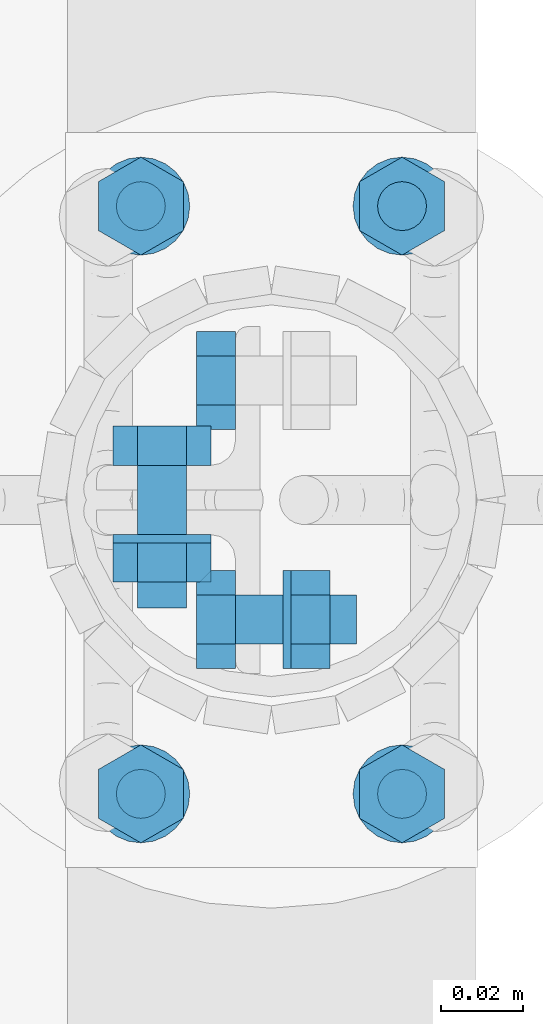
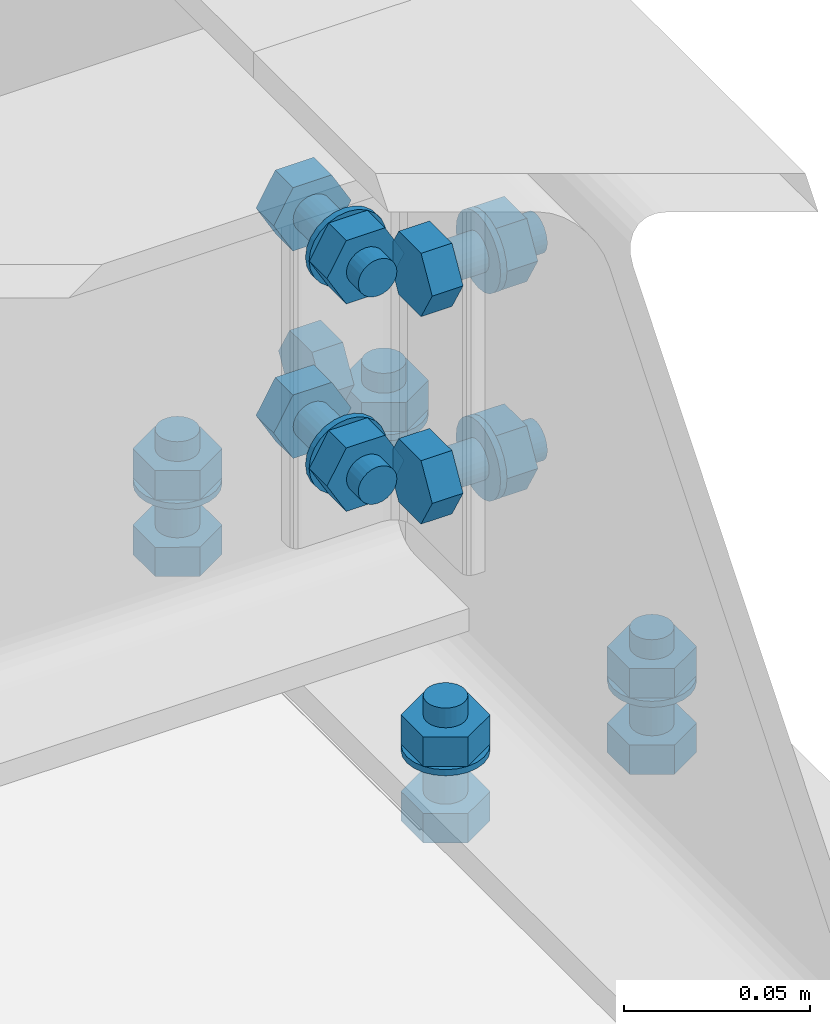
# One storey, part 22 of 84: 40 mechanical fasteners.
"""IFC4 building model written with IfcOpenShell, lengths in metres."""

from ifc_helpers import new_model, si_unit, frame, origin_with_axes, place, context, project, spatial, polyline, outline, extrude, type_object, element, save


model = new_model("IFC4")

# Units and contexts
model_context = context("Model", 3, precision=1e-05, world=origin_with_axes())
ifc_project = project(units=[si_unit("LENGTHUNIT", "METRE"), si_unit("AREAUNIT", "SQUARE_METRE"), si_unit("VOLUMEUNIT", "CUBIC_METRE"), si_unit("MASSUNIT", "GRAM", prefix="KILO"), si_unit("TIMEUNIT", "SECOND"), si_unit("PLANEANGLEUNIT", "RADIAN"), si_unit("SOLIDANGLEUNIT", "STERADIAN"), si_unit("THERMODYNAMICTEMPERATUREUNIT", "DEGREE_CELSIUS")], contexts=[model_context])

# Site, building, storey
placement_1 = place(None, origin_with_axes())
site = spatial("IfcSite", under=ifc_project, at=placement_1, Name="Italia", CompositionType="ELEMENT")
building = spatial("IfcBuilding", under=site, at=placement_1, Name="Tettoia", CompositionType="ELEMENT")
storey_placement = place(None, frame((0.0, 0.0, 4.199999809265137), z_axis=(0.0, 0.0, 1.0), x_axis=(1.0, 0.0, 0.0)))
storey = spatial("IfcBuildingStorey", under=building, at=storey_placement, Name="Storey 1", CompositionType="ELEMENT", Elevation=4.199999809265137)

# Mechanical fasteners
mechanical_fastener_type_1 = type_object("IfcMechanicalFastenerType", Name="Collegamento 0102_-002", PredefinedType="BOLT")
placement_2 = place(placement_1, origin_with_axes())
mechanical_fastener_1_placement = place(placement_2, origin_with_axes())
element("IfcMechanicalFastener", 1, at=mechanical_fastener_1_placement, inside=storey, type_object=mechanical_fastener_type_1, Name="Collegamento 0102_-002", NominalDiameter=0.012, context=model_context, shape_type="SweptSolid", body=[
    extrude(outline(polyline([(0.0, 0.0), (-0.000204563, -0.00155258), (-0.000803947, -0.00300026), (-0.00175738, -0.0042429), (-0.00300002, -0.00519657), (-0.00444722, -0.00579548), (-0.00600004, -0.00599957), (-0.00755286, -0.00579548), (-0.00900006, -0.00519657), (-0.0102427, -0.0042429), (-0.0111961, -0.00300026), (-0.0117955, -0.00155258), (-0.0120001, 0.0), (-0.0117955, 0.00155258), (-0.0111961, 0.00300026), (-0.0102427, 0.0042429), (-0.00900006, 0.00519657), (-0.00755286, 0.00579548), (-0.00600004, 0.00599957), (-0.00444722, 0.00579548), (-0.00300002, 0.00519657), (-0.00175738, 0.0042429), (-0.000803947, 0.00300026), (-0.000204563, 0.00155258), (0.0, 0.0)])), frame((11.322, 2.078, 4.2265), z_axis=(0.0, 0.0, -1.0), x_axis=(0.0, 1.0, 0.0)), (0.0, 0.0, 1.0), 0.0315003),
])
mechanical_fastener_type_2 = type_object("IfcMechanicalFastenerType", Name="Collegamento 0102_-002", PredefinedType="BOLT")
mechanical_fastener_2_placement = place(placement_2, origin_with_axes())
element("IfcMechanicalFastener", 2, at=mechanical_fastener_2_placement, inside=storey, type_object=mechanical_fastener_type_2, Name="Collegamento 0102_-002", NominalDiameter=0.0119998, context=model_context, shape_type="SweptSolid", body=[
    extrude(outline(polyline([(0.0, 0.0), (0.0119998, 0.0), (0.0179999, -0.0103931), (0.0119998, -0.0207853), (0.0, -0.0207853), (-0.00600004, -0.0103931), (0.0, 0.0)])), frame((11.3324, 2.066, 4.2201), z_axis=(0.0, 0.0, -1.0), x_axis=(0.0, 1.0, 0.0)), (0.0, 0.0, 1.0), 0.00960016),
])
mechanical_fastener_type_3 = type_object("IfcMechanicalFastenerType", Name="Collegamento 0102_-002", PredefinedType="BOLT")
mechanical_fastener_3_placement = place(placement_2, origin_with_axes())
element("IfcMechanicalFastener", 3, at=mechanical_fastener_3_placement, inside=storey, type_object=mechanical_fastener_type_3, Name="Collegamento 0102_-002", NominalDiameter=0.024, context=model_context, shape_type="SweptSolid", body=[
    extrude(outline(polyline([(0.0, 0.0), (-0.000408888, -0.00310612), (-0.00160789, -0.00599957), (-0.00351477, -0.00848484), (-0.00600004, -0.0103922), (-0.00889421, -0.011591), (-0.0120001, -0.0120001), (-0.015106, -0.011591), (-0.0180001, -0.0103922), (-0.0204854, -0.00848484), (-0.0223923, -0.00599957), (-0.0235913, -0.00310612), (-0.0240002, 0.0), (-0.0235913, 0.00310612), (-0.0223923, 0.00599957), (-0.0204854, 0.00848484), (-0.0180001, 0.0103922), (-0.015106, 0.011591), (-0.0120001, 0.0120001), (-0.00889421, 0.011591), (-0.00600004, 0.0103922), (-0.00351477, 0.00848484), (-0.00160789, 0.00599957), (-0.000408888, 0.00310612), (0.0, 0.0)])), frame((11.322, 2.084, 4.2105), z_axis=(0.0, 0.0, -1.0), x_axis=(0.0, 1.0, 0.0)), (0.0, 0.0, 1.0), 0.00199986),
])
mechanical_fastener_type_4 = type_object("IfcMechanicalFastenerType", Name="Collegamento 0102_-002", PredefinedType="BOLT")
mechanical_fastener_4_placement = place(placement_2, origin_with_axes())
element("IfcMechanicalFastener", 4, at=mechanical_fastener_4_placement, inside=storey, type_object=mechanical_fastener_type_4, Name="Collegamento 0102_-002", NominalDiameter=0.0119999, context=model_context, shape_type="SweptSolid", body=[
    extrude(outline(polyline([(0.0, 0.0), (0.012, 0.0), (0.018, -0.0103931), (0.012, -0.0207853), (0.0, -0.0207853), (-0.00600004, -0.0103931), (0.0, 0.0)])), frame((11.3324, 1.922, 4.195), z_axis=(0.0, 0.0, -1.0), x_axis=(0.0, 1.0, 0.0)), (0.0, 0.0, 1.0), 0.00959969),
])
mechanical_fastener_type_5 = type_object("IfcMechanicalFastenerType", Name="Collegamento 0102_-002", PredefinedType="BOLT")
mechanical_fastener_5_placement = place(placement_2, origin_with_axes())
element("IfcMechanicalFastener", 5, at=mechanical_fastener_5_placement, inside=storey, type_object=mechanical_fastener_type_5, Name="Collegamento 0102_-002", NominalDiameter=0.012, context=model_context, shape_type="SweptSolid", body=[
    extrude(outline(polyline([(0.0, 0.0), (-0.000204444, -0.00155258), (-0.000803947, -0.00300026), (-0.00175738, -0.0042429), (-0.00300002, -0.00519657), (-0.0044471, -0.00579548), (-0.00600004, -0.00599957), (-0.00755298, -0.00579548), (-0.00900006, -0.00519657), (-0.0102427, -0.0042429), (-0.0111961, -0.00300026), (-0.0117956, -0.00155258), (-0.0120001, 0.0), (-0.0117956, 0.00155258), (-0.0111961, 0.00300026), (-0.0102427, 0.0042429), (-0.00900006, 0.00519657), (-0.00755298, 0.00579548), (-0.00600004, 0.00599957), (-0.0044471, 0.00579548), (-0.00300002, 0.00519657), (-0.00175738, 0.0042429), (-0.000803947, 0.00300026), (-0.000204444, 0.00155258), (0.0, 0.0)])), frame((11.322, 1.934, 4.2265), z_axis=(0.0, 0.0, -1.0), x_axis=(0.0, 1.0, 0.0)), (0.0, 0.0, 1.0), 0.0315003),
])
mechanical_fastener_type_6 = type_object("IfcMechanicalFastenerType", Name="Collegamento 0102_-002", PredefinedType="BOLT")
mechanical_fastener_6_placement = place(placement_2, origin_with_axes())
element("IfcMechanicalFastener", 6, at=mechanical_fastener_6_placement, inside=storey, type_object=mechanical_fastener_type_6, Name="Collegamento 0102_-002", NominalDiameter=0.0119999, context=model_context, shape_type="SweptSolid", body=[
    extrude(outline(polyline([(0.0, 0.0), (0.012, 0.0), (0.018, -0.0103931), (0.012, -0.0207853), (0.0, -0.0207853), (-0.00600004, -0.0103931), (0.0, 0.0)])), frame((11.3324, 1.922, 4.2201), z_axis=(0.0, 0.0, -1.0), x_axis=(0.0, 1.0, 0.0)), (0.0, 0.0, 1.0), 0.00960016),
])
mechanical_fastener_type_7 = type_object("IfcMechanicalFastenerType", Name="Collegamento 0102_-002", PredefinedType="BOLT")
mechanical_fastener_7_placement = place(placement_2, origin_with_axes())
element("IfcMechanicalFastener", 7, at=mechanical_fastener_7_placement, inside=storey, type_object=mechanical_fastener_type_7, Name="Collegamento 0102_-002", NominalDiameter=0.024, context=model_context, shape_type="SweptSolid", body=[
    extrude(outline(polyline([(0.0, 0.0), (-0.000408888, -0.00310612), (-0.00160766, -0.00599957), (-0.00351465, -0.00848484), (-0.00599992, -0.0103922), (-0.00889409, -0.011591), (-0.012, -0.0120001), (-0.0151058, -0.011591), (-0.018, -0.0103922), (-0.0204853, -0.00848484), (-0.0223923, -0.00599957), (-0.023591, -0.00310612), (-0.0239999, 0.0), (-0.023591, 0.00310612), (-0.0223923, 0.00599957), (-0.0204853, 0.00848484), (-0.018, 0.0103922), (-0.0151058, 0.011591), (-0.012, 0.0120001), (-0.00889409, 0.011591), (-0.00599992, 0.0103922), (-0.00351465, 0.00848484), (-0.00160766, 0.00599957), (-0.000408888, 0.00310612), (0.0, 0.0)])), frame((11.322, 1.94, 4.2105), z_axis=(0.0, 0.0, -1.0), x_axis=(0.0, 1.0, 0.0)), (0.0, 0.0, 1.0), 0.00199986),
])
mechanical_fastener_type_8 = type_object("IfcMechanicalFastenerType", Name="Collegamento 0102_-002", PredefinedType="BOLT")
mechanical_fastener_8_placement = place(placement_2, origin_with_axes())
element("IfcMechanicalFastener", 8, at=mechanical_fastener_8_placement, inside=storey, type_object=mechanical_fastener_type_8, Name="Collegamento 0102_-002", NominalDiameter=0.0119998, context=model_context, shape_type="SweptSolid", body=[
    extrude(outline(polyline([(0.0, 0.0), (0.0119998, 0.0), (0.0179999, -0.0103922), (0.0119998, -0.0207853), (0.0, -0.0207853), (-0.00600004, -0.0103922), (0.0, 0.0)])), frame((11.2684, 2.066, 4.195), z_axis=(0.0, 0.0, -1.0), x_axis=(0.0, 1.0, 0.0)), (0.0, 0.0, 1.0), 0.00959969),
])
mechanical_fastener_type_9 = type_object("IfcMechanicalFastenerType", Name="Collegamento 0102_-002", PredefinedType="BOLT")
mechanical_fastener_9_placement = place(placement_2, origin_with_axes())
element("IfcMechanicalFastener", 9, at=mechanical_fastener_9_placement, inside=storey, type_object=mechanical_fastener_type_9, Name="Collegamento 0102_-002", NominalDiameter=0.012, context=model_context, shape_type="SweptSolid", body=[
    extrude(outline(polyline([(0.0, 0.0), (-0.000204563, -0.00155258), (-0.000803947, -0.00300026), (-0.00175738, -0.0042429), (-0.00300002, -0.00519657), (-0.00444722, -0.00579548), (-0.00600004, -0.00599957), (-0.00755286, -0.00579548), (-0.00900006, -0.00519657), (-0.0102427, -0.0042429), (-0.0111961, -0.00300026), (-0.0117955, -0.00155258), (-0.0120001, 0.0), (-0.0117955, 0.00155258), (-0.0111961, 0.00300026), (-0.0102427, 0.0042429), (-0.00900006, 0.00519657), (-0.00755286, 0.00579548), (-0.00600004, 0.00599957), (-0.00444722, 0.00579548), (-0.00300002, 0.00519657), (-0.00175738, 0.0042429), (-0.000803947, 0.00300026), (-0.000204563, 0.00155258), (0.0, 0.0)])), frame((11.258, 2.078, 4.2265), z_axis=(0.0, 0.0, -1.0), x_axis=(0.0, 1.0, 0.0)), (0.0, 0.0, 1.0), 0.0315003),
])
mechanical_fastener_type_10 = type_object("IfcMechanicalFastenerType", Name="Collegamento 0102_-002", PredefinedType="BOLT")
mechanical_fastener_10_placement = place(placement_2, origin_with_axes())
element("IfcMechanicalFastener", 10, at=mechanical_fastener_10_placement, inside=storey, type_object=mechanical_fastener_type_10, Name="Collegamento 0102_-002", NominalDiameter=0.0119998, context=model_context, shape_type="SweptSolid", body=[
    extrude(outline(polyline([(0.0, 0.0), (0.0119998, 0.0), (0.0179999, -0.0103922), (0.0119998, -0.0207853), (0.0, -0.0207853), (-0.00600004, -0.0103922), (0.0, 0.0)])), frame((11.2684, 2.066, 4.2201), z_axis=(0.0, 0.0, -1.0), x_axis=(0.0, 1.0, 0.0)), (0.0, 0.0, 1.0), 0.00960016),
])
mechanical_fastener_type_11 = type_object("IfcMechanicalFastenerType", Name="Collegamento 0102_-002", PredefinedType="BOLT")
mechanical_fastener_11_placement = place(placement_2, origin_with_axes())
element("IfcMechanicalFastener", 11, at=mechanical_fastener_11_placement, inside=storey, type_object=mechanical_fastener_type_11, Name="Collegamento 0102_-002", NominalDiameter=0.024, context=model_context, shape_type="SweptSolid", body=[
    extrude(outline(polyline([(0.0, 0.0), (-0.000408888, -0.00310612), (-0.00160789, -0.00599957), (-0.00351477, -0.00848484), (-0.00600004, -0.0103922), (-0.00889421, -0.011591), (-0.0120001, -0.0120001), (-0.015106, -0.011591), (-0.0180001, -0.0103922), (-0.0204854, -0.00848484), (-0.0223923, -0.00599957), (-0.0235913, -0.00310612), (-0.0240002, 0.0), (-0.0235913, 0.00310612), (-0.0223923, 0.00599957), (-0.0204854, 0.00848484), (-0.0180001, 0.0103922), (-0.015106, 0.011591), (-0.0120001, 0.0120001), (-0.00889421, 0.011591), (-0.00600004, 0.0103922), (-0.00351477, 0.00848484), (-0.00160789, 0.00599957), (-0.000408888, 0.00310612), (0.0, 0.0)])), frame((11.258, 2.084, 4.2105), z_axis=(0.0, 0.0, -1.0), x_axis=(0.0, 1.0, 0.0)), (0.0, 0.0, 1.0), 0.00199986),
])
mechanical_fastener_type_12 = type_object("IfcMechanicalFastenerType", Name="Collegamento 0102_-002", PredefinedType="BOLT")
mechanical_fastener_12_placement = place(placement_2, origin_with_axes())
element("IfcMechanicalFastener", 12, at=mechanical_fastener_12_placement, inside=storey, type_object=mechanical_fastener_type_12, Name="Collegamento 0102_-002", NominalDiameter=0.0119999, context=model_context, shape_type="SweptSolid", body=[
    extrude(outline(polyline([(0.0, 0.0), (0.012, 0.0), (0.018, -0.0103922), (0.012, -0.0207853), (0.0, -0.0207853), (-0.00600004, -0.0103922), (0.0, 0.0)])), frame((11.2684, 1.922, 4.195), z_axis=(0.0, 0.0, -1.0), x_axis=(0.0, 1.0, 0.0)), (0.0, 0.0, 1.0), 0.00959969),
])
mechanical_fastener_type_13 = type_object("IfcMechanicalFastenerType", Name="Collegamento 0102_-002", PredefinedType="BOLT")
mechanical_fastener_13_placement = place(placement_2, origin_with_axes())
element("IfcMechanicalFastener", 13, at=mechanical_fastener_13_placement, inside=storey, type_object=mechanical_fastener_type_13, Name="Collegamento 0102_-002", NominalDiameter=0.012, context=model_context, shape_type="SweptSolid", body=[
    extrude(outline(polyline([(0.0, 0.0), (-0.000204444, -0.00155258), (-0.000803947, -0.00300026), (-0.00175738, -0.0042429), (-0.00300002, -0.00519657), (-0.0044471, -0.00579548), (-0.00600004, -0.00599957), (-0.00755298, -0.00579548), (-0.00900006, -0.00519657), (-0.0102427, -0.0042429), (-0.0111961, -0.00300026), (-0.0117956, -0.00155258), (-0.0120001, 0.0), (-0.0117956, 0.00155258), (-0.0111961, 0.00300026), (-0.0102427, 0.0042429), (-0.00900006, 0.00519657), (-0.00755298, 0.00579548), (-0.00600004, 0.00599957), (-0.0044471, 0.00579548), (-0.00300002, 0.00519657), (-0.00175738, 0.0042429), (-0.000803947, 0.00300026), (-0.000204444, 0.00155258), (0.0, 0.0)])), frame((11.258, 1.934, 4.2265), z_axis=(0.0, 0.0, -1.0), x_axis=(0.0, 1.0, 0.0)), (0.0, 0.0, 1.0), 0.0315003),
])
mechanical_fastener_type_14 = type_object("IfcMechanicalFastenerType", Name="Collegamento 0102_-002", PredefinedType="BOLT")
mechanical_fastener_14_placement = place(placement_2, origin_with_axes())
element("IfcMechanicalFastener", 14, at=mechanical_fastener_14_placement, inside=storey, type_object=mechanical_fastener_type_14, Name="Collegamento 0102_-002", NominalDiameter=0.0119999, context=model_context, shape_type="SweptSolid", body=[
    extrude(outline(polyline([(0.0, 0.0), (0.012, 0.0), (0.018, -0.0103922), (0.012, -0.0207853), (0.0, -0.0207853), (-0.00600004, -0.0103922), (0.0, 0.0)])), frame((11.2684, 1.922, 4.2201), z_axis=(0.0, 0.0, -1.0), x_axis=(0.0, 1.0, 0.0)), (0.0, 0.0, 1.0), 0.00960016),
])
mechanical_fastener_type_15 = type_object("IfcMechanicalFastenerType", Name="Collegamento 0102_-002", PredefinedType="BOLT")
mechanical_fastener_15_placement = place(placement_2, origin_with_axes())
element("IfcMechanicalFastener", 15, at=mechanical_fastener_15_placement, inside=storey, type_object=mechanical_fastener_type_15, Name="Collegamento 0102_-002", NominalDiameter=0.024, context=model_context, shape_type="SweptSolid", body=[
    extrude(outline(polyline([(0.0, 0.0), (-0.000408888, -0.00310612), (-0.00160766, -0.00599957), (-0.00351465, -0.00848484), (-0.00599992, -0.0103922), (-0.00889409, -0.011591), (-0.012, -0.0120001), (-0.0151058, -0.011591), (-0.018, -0.0103922), (-0.0204853, -0.00848484), (-0.0223923, -0.00599957), (-0.023591, -0.00310612), (-0.0239999, 0.0), (-0.023591, 0.00310612), (-0.0223923, 0.00599957), (-0.0204853, 0.00848484), (-0.018, 0.0103922), (-0.0151058, 0.011591), (-0.012, 0.0120001), (-0.00889409, 0.011591), (-0.00599992, 0.0103922), (-0.00351465, 0.00848484), (-0.00160766, 0.00599957), (-0.000408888, 0.00310612), (0.0, 0.0)])), frame((11.258, 1.94, 4.2105), z_axis=(0.0, 0.0, -1.0), x_axis=(0.0, 1.0, 0.0)), (0.0, 0.0, 1.0), 0.00199986),
])
mechanical_fastener_type_16 = type_object("IfcMechanicalFastenerType", Name="Collegamento 0102_0101", PredefinedType="BOLT")
mechanical_fastener_16_placement = place(placement_2, origin_with_axes())
element("IfcMechanicalFastener", 16, at=mechanical_fastener_16_placement, inside=storey, type_object=mechanical_fastener_type_16, Name="Collegamento 0102_0101", NominalDiameter=0.0119997, context=model_context, shape_type="SweptSolid", body=[
    extrude(outline(polyline([(0.0, 0.0), (-0.0120001, 0.0), (-0.0179996, 0.0103922), (-0.0120001, 0.0207844), (0.0, 0.0207844), (0.00600052, 0.0103922), (0.0, 0.0)])), frame((11.2572, 2.0085, 4.25561), z_axis=(0.0, 1.0, 0.0), x_axis=(-1.0, 0.0, 0.0)), (0.0, 0.0, 1.0), 0.00959992),
])
mechanical_fastener_type_17 = type_object("IfcMechanicalFastenerType", Name="Collegamento 0102_0101", PredefinedType="BOLT")
mechanical_fastener_17_placement = place(placement_2, origin_with_axes())
element("IfcMechanicalFastener", 17, at=mechanical_fastener_17_placement, inside=storey, type_object=mechanical_fastener_type_17, Name="Collegamento 0102_0101", NominalDiameter=0.012, context=model_context, shape_type="SweptSolid", body=[
    extrude(outline(polyline([(0.0, 0.0), (-0.000204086, -0.00155306), (-0.000802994, -0.00299978), (-0.00175667, -0.00424242), (-0.00299931, -0.00519609), (-0.00444698, -0.00579548), (-0.00599957, -0.00600004), (-0.00755215, -0.00579548), (-0.00899982, -0.00519609), (-0.0102425, -0.00424242), (-0.0111961, -0.00299978), (-0.011795, -0.00155306), (-0.0119991, 0.0), (-0.011795, 0.00155306), (-0.0111961, 0.00299978), (-0.0102425, 0.00424242), (-0.00899982, 0.00519609), (-0.00755215, 0.00579548), (-0.00599957, 0.00600004), (-0.00444698, 0.00579548), (-0.00299931, 0.00519609), (-0.00175667, 0.00424242), (-0.000802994, 0.00299978), (-0.000204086, 0.00155306), (0.0, 0.0)])), frame((11.2572, 1.9735, 4.266), z_axis=(0.0, 1.0, 0.0), x_axis=(-1.0, 0.0, 0.0)), (0.0, 0.0, 1.0), 0.0350001),
])
mechanical_fastener_type_18 = type_object("IfcMechanicalFastenerType", Name="Collegamento 0102_0101", PredefinedType="BOLT")
mechanical_fastener_18_placement = place(placement_2, origin_with_axes())
element("IfcMechanicalFastener", 18, at=mechanical_fastener_18_placement, inside=storey, type_object=mechanical_fastener_type_18, Name="Collegamento 0102_0101", NominalDiameter=0.0119997, context=model_context, shape_type="SweptSolid", body=[
    extrude(outline(polyline([(0.0, 0.0), (-0.0120001, 0.0), (-0.0179996, 0.0103922), (-0.0120001, 0.0207844), (0.0, 0.0207844), (0.00600052, 0.0103922), (0.0, 0.0)])), frame((11.2572, 1.9799, 4.25561), z_axis=(0.0, 1.0, 0.0), x_axis=(-1.0, 0.0, 0.0)), (0.0, 0.0, 1.0), 0.00960004),
])
mechanical_fastener_type_19 = type_object("IfcMechanicalFastenerType", Name="Collegamento 0102_0101", PredefinedType="BOLT")
mechanical_fastener_19_placement = place(placement_2, origin_with_axes())
element("IfcMechanicalFastener", 19, at=mechanical_fastener_19_placement, inside=storey, type_object=mechanical_fastener_type_19, Name="Collegamento 0102_0101", NominalDiameter=0.024, context=model_context, shape_type="SweptSolid", body=[
    extrude(outline(polyline([(0.0, 0.0), (-0.000409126, -0.00310564), (-0.00160789, -0.00600004), (-0.00351524, -0.00848532), (-0.00600052, -0.0103922), (-0.00889397, -0.011591), (-0.0120001, -0.0120001), (-0.0151062, -0.011591), (-0.0179996, -0.0103922), (-0.0204849, -0.00848532), (-0.0223923, -0.00600004), (-0.023591, -0.00310564), (-0.0240002, 0.0), (-0.023591, 0.00310564), (-0.0223923, 0.00600004), (-0.0204849, 0.00848532), (-0.0179996, 0.0103922), (-0.0151062, 0.011591), (-0.0120001, 0.0120001), (-0.00889397, 0.011591), (-0.00600052, 0.0103922), (-0.00351524, 0.00848532), (-0.00160789, 0.00600004), (-0.000409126, 0.00310564), (0.0, 0.0)])), frame((11.2512, 1.9895, 4.266), z_axis=(0.0, 1.0, 0.0), x_axis=(-1.0, 0.0, 0.0)), (0.0, 0.0, 1.0), 0.00199997),
])
mechanical_fastener_type_20 = type_object("IfcMechanicalFastenerType", Name="Collegamento 0102_0101", PredefinedType="BOLT")
mechanical_fastener_20_placement = place(placement_2, origin_with_axes())
element("IfcMechanicalFastener", 20, at=mechanical_fastener_20_placement, inside=storey, type_object=mechanical_fastener_type_20, Name="Collegamento 0102_0101", NominalDiameter=0.0119997, context=model_context, shape_type="SweptSolid", body=[
    extrude(outline(polyline([(0.0, 0.0), (-0.0120001, 0.0), (-0.0179996, 0.0103922), (-0.0120001, 0.0207844), (0.0, 0.0207844), (0.00600052, 0.0103922), (0.0, 0.0)])), frame((11.2572, 2.0085, 4.32361), z_axis=(0.0, 1.0, 0.0), x_axis=(-1.0, 0.0, 0.0)), (0.0, 0.0, 1.0), 0.00959992),
])
mechanical_fastener_type_21 = type_object("IfcMechanicalFastenerType", Name="Collegamento 0102_0101", PredefinedType="BOLT")
mechanical_fastener_21_placement = place(placement_2, origin_with_axes())
element("IfcMechanicalFastener", 21, at=mechanical_fastener_21_placement, inside=storey, type_object=mechanical_fastener_type_21, Name="Collegamento 0102_0101", NominalDiameter=0.012, context=model_context, shape_type="SweptSolid", body=[
    extrude(outline(polyline([(0.0, 0.0), (-0.000204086, -0.00155306), (-0.000802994, -0.00299978), (-0.00175667, -0.00424242), (-0.00299931, -0.00519609), (-0.00444698, -0.00579548), (-0.00599957, -0.00600004), (-0.00755215, -0.00579548), (-0.00899982, -0.00519609), (-0.0102425, -0.00424242), (-0.0111961, -0.00299978), (-0.011795, -0.00155306), (-0.0119991, 0.0), (-0.011795, 0.00155306), (-0.0111961, 0.00299978), (-0.0102425, 0.00424242), (-0.00899982, 0.00519609), (-0.00755215, 0.00579548), (-0.00599957, 0.00600004), (-0.00444698, 0.00579548), (-0.00299931, 0.00519609), (-0.00175667, 0.00424242), (-0.000802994, 0.00299978), (-0.000204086, 0.00155306), (0.0, 0.0)])), frame((11.2572, 1.9735, 4.334), z_axis=(0.0, 1.0, 0.0), x_axis=(-1.0, 0.0, 0.0)), (0.0, 0.0, 1.0), 0.0350001),
])
mechanical_fastener_type_22 = type_object("IfcMechanicalFastenerType", Name="Collegamento 0102_0101", PredefinedType="BOLT")
mechanical_fastener_22_placement = place(placement_2, origin_with_axes())
element("IfcMechanicalFastener", 22, at=mechanical_fastener_22_placement, inside=storey, type_object=mechanical_fastener_type_22, Name="Collegamento 0102_0101", NominalDiameter=0.0119997, context=model_context, shape_type="SweptSolid", body=[
    extrude(outline(polyline([(0.0, 0.0), (-0.0120001, 0.0), (-0.0179996, 0.0103922), (-0.0120001, 0.0207844), (0.0, 0.0207844), (0.00600052, 0.0103922), (0.0, 0.0)])), frame((11.2572, 1.9799, 4.32361), z_axis=(0.0, 1.0, 0.0), x_axis=(-1.0, 0.0, 0.0)), (0.0, 0.0, 1.0), 0.00960004),
])
mechanical_fastener_type_23 = type_object("IfcMechanicalFastenerType", Name="Collegamento 0102_0101", PredefinedType="BOLT")
mechanical_fastener_23_placement = place(placement_2, origin_with_axes())
element("IfcMechanicalFastener", 23, at=mechanical_fastener_23_placement, inside=storey, type_object=mechanical_fastener_type_23, Name="Collegamento 0102_0101", NominalDiameter=0.024, context=model_context, shape_type="SweptSolid", body=[
    extrude(outline(polyline([(0.0, 0.0), (-0.000409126, -0.00310564), (-0.00160789, -0.00600004), (-0.00351524, -0.00848532), (-0.00600052, -0.0103922), (-0.00889397, -0.011591), (-0.0120001, -0.0120001), (-0.0151062, -0.011591), (-0.0179996, -0.0103922), (-0.0204849, -0.00848532), (-0.0223923, -0.00600004), (-0.023591, -0.00310564), (-0.0240002, 0.0), (-0.023591, 0.00310564), (-0.0223923, 0.00600004), (-0.0204849, 0.00848532), (-0.0179996, 0.0103922), (-0.0151062, 0.011591), (-0.0120001, 0.0120001), (-0.00889397, 0.011591), (-0.00600052, 0.0103922), (-0.00351524, 0.00848532), (-0.00160789, 0.00600004), (-0.000409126, 0.00310564), (0.0, 0.0)])), frame((11.2512, 1.9895, 4.334), z_axis=(0.0, 1.0, 0.0), x_axis=(-1.0, 0.0, 0.0)), (0.0, 0.0, 1.0), 0.00199997),
])
mechanical_fastener_type_24 = type_object("IfcMechanicalFastenerType", Name="Collegamento 0102_0101", PredefinedType="BOLT")
mechanical_fastener_24_placement = place(placement_2, origin_with_axes())
element("IfcMechanicalFastener", 24, at=mechanical_fastener_24_placement, inside=storey, type_object=mechanical_fastener_type_24, Name="Collegamento 0102_0101", NominalDiameter=0.0119997, context=model_context, shape_type="SweptSolid", body=[
    extrude(outline(polyline([(0.0, 0.0), (-0.0120001, 0.0), (-0.0179996, 0.0103922), (-0.0120001, 0.0207844), (0.0, 0.0207844), (0.00600052, 0.0103922), (0.0, 0.0)])), frame((11.2572, 2.0085, 4.25561), z_axis=(0.0, 1.0, 0.0), x_axis=(-1.0, 0.0, 0.0)), (0.0, 0.0, 1.0), 0.00959992),
])
mechanical_fastener_type_25 = type_object("IfcMechanicalFastenerType", Name="Collegamento 0102_0101", PredefinedType="BOLT")
mechanical_fastener_25_placement = place(placement_2, origin_with_axes())
element("IfcMechanicalFastener", 25, at=mechanical_fastener_25_placement, inside=storey, type_object=mechanical_fastener_type_25, Name="Collegamento 0102_0101", NominalDiameter=0.012, context=model_context, shape_type="SweptSolid", body=[
    extrude(outline(polyline([(0.0, 0.0), (-0.000204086, -0.00155306), (-0.000802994, -0.00299978), (-0.00175667, -0.00424242), (-0.00299931, -0.00519609), (-0.00444698, -0.00579548), (-0.00599957, -0.00600004), (-0.00755215, -0.00579548), (-0.00899982, -0.00519609), (-0.0102425, -0.00424242), (-0.0111961, -0.00299978), (-0.011795, -0.00155306), (-0.0119991, 0.0), (-0.011795, 0.00155306), (-0.0111961, 0.00299978), (-0.0102425, 0.00424242), (-0.00899982, 0.00519609), (-0.00755215, 0.00579548), (-0.00599957, 0.00600004), (-0.00444698, 0.00579548), (-0.00299931, 0.00519609), (-0.00175667, 0.00424242), (-0.000802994, 0.00299978), (-0.000204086, 0.00155306), (0.0, 0.0)])), frame((11.2572, 1.9735, 4.266), z_axis=(0.0, 1.0, 0.0), x_axis=(-1.0, 0.0, 0.0)), (0.0, 0.0, 1.0), 0.0350001),
])
mechanical_fastener_type_26 = type_object("IfcMechanicalFastenerType", Name="Collegamento 0102_0101", PredefinedType="BOLT")
mechanical_fastener_26_placement = place(placement_2, origin_with_axes())
element("IfcMechanicalFastener", 26, at=mechanical_fastener_26_placement, inside=storey, type_object=mechanical_fastener_type_26, Name="Collegamento 0102_0101", NominalDiameter=0.0119997, context=model_context, shape_type="SweptSolid", body=[
    extrude(outline(polyline([(0.0, 0.0), (-0.0120001, 0.0), (-0.0179996, 0.0103922), (-0.0120001, 0.0207844), (0.0, 0.0207844), (0.00600052, 0.0103922), (0.0, 0.0)])), frame((11.2572, 1.9799, 4.25561), z_axis=(0.0, 1.0, 0.0), x_axis=(-1.0, 0.0, 0.0)), (0.0, 0.0, 1.0), 0.00960004),
])
mechanical_fastener_type_27 = type_object("IfcMechanicalFastenerType", Name="Collegamento 0102_0101", PredefinedType="BOLT")
mechanical_fastener_27_placement = place(placement_2, origin_with_axes())
element("IfcMechanicalFastener", 27, at=mechanical_fastener_27_placement, inside=storey, type_object=mechanical_fastener_type_27, Name="Collegamento 0102_0101", NominalDiameter=0.024, context=model_context, shape_type="SweptSolid", body=[
    extrude(outline(polyline([(0.0, 0.0), (-0.000409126, -0.00310564), (-0.00160789, -0.00600004), (-0.00351524, -0.00848532), (-0.00600052, -0.0103922), (-0.00889397, -0.011591), (-0.0120001, -0.0120001), (-0.0151062, -0.011591), (-0.0179996, -0.0103922), (-0.0204849, -0.00848532), (-0.0223923, -0.00600004), (-0.023591, -0.00310564), (-0.0240002, 0.0), (-0.023591, 0.00310564), (-0.0223923, 0.00600004), (-0.0204849, 0.00848532), (-0.0179996, 0.0103922), (-0.0151062, 0.011591), (-0.0120001, 0.0120001), (-0.00889397, 0.011591), (-0.00600052, 0.0103922), (-0.00351524, 0.00848532), (-0.00160789, 0.00600004), (-0.000409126, 0.00310564), (0.0, 0.0)])), frame((11.2512, 1.9895, 4.266), z_axis=(0.0, 1.0, 0.0), x_axis=(-1.0, 0.0, 0.0)), (0.0, 0.0, 1.0), 0.00199997),
])
mechanical_fastener_type_28 = type_object("IfcMechanicalFastenerType", Name="Collegamento 0102_0101", PredefinedType="BOLT")
mechanical_fastener_28_placement = place(placement_2, origin_with_axes())
element("IfcMechanicalFastener", 28, at=mechanical_fastener_28_placement, inside=storey, type_object=mechanical_fastener_type_28, Name="Collegamento 0102_0101", NominalDiameter=0.0119997, context=model_context, shape_type="SweptSolid", body=[
    extrude(outline(polyline([(0.0, 0.0), (-0.0120001, 0.0), (-0.0179996, 0.0103922), (-0.0120001, 0.0207844), (0.0, 0.0207844), (0.00600052, 0.0103922), (0.0, 0.0)])), frame((11.2572, 2.0085, 4.32361), z_axis=(0.0, 1.0, 0.0), x_axis=(-1.0, 0.0, 0.0)), (0.0, 0.0, 1.0), 0.00959992),
])
mechanical_fastener_type_29 = type_object("IfcMechanicalFastenerType", Name="Collegamento 0102_0101", PredefinedType="BOLT")
mechanical_fastener_29_placement = place(placement_2, origin_with_axes())
element("IfcMechanicalFastener", 29, at=mechanical_fastener_29_placement, inside=storey, type_object=mechanical_fastener_type_29, Name="Collegamento 0102_0101", NominalDiameter=0.012, context=model_context, shape_type="SweptSolid", body=[
    extrude(outline(polyline([(0.0, 0.0), (-0.000204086, -0.00155306), (-0.000802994, -0.00299978), (-0.00175667, -0.00424242), (-0.00299931, -0.00519609), (-0.00444698, -0.00579548), (-0.00599957, -0.00600004), (-0.00755215, -0.00579548), (-0.00899982, -0.00519609), (-0.0102425, -0.00424242), (-0.0111961, -0.00299978), (-0.011795, -0.00155306), (-0.0119991, 0.0), (-0.011795, 0.00155306), (-0.0111961, 0.00299978), (-0.0102425, 0.00424242), (-0.00899982, 0.00519609), (-0.00755215, 0.00579548), (-0.00599957, 0.00600004), (-0.00444698, 0.00579548), (-0.00299931, 0.00519609), (-0.00175667, 0.00424242), (-0.000802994, 0.00299978), (-0.000204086, 0.00155306), (0.0, 0.0)])), frame((11.2572, 1.9735, 4.334), z_axis=(0.0, 1.0, 0.0), x_axis=(-1.0, 0.0, 0.0)), (0.0, 0.0, 1.0), 0.0350001),
])
mechanical_fastener_type_30 = type_object("IfcMechanicalFastenerType", Name="Collegamento 0102_0101", PredefinedType="BOLT")
mechanical_fastener_30_placement = place(placement_2, origin_with_axes())
element("IfcMechanicalFastener", 30, at=mechanical_fastener_30_placement, inside=storey, type_object=mechanical_fastener_type_30, Name="Collegamento 0102_0101", NominalDiameter=0.0119997, context=model_context, shape_type="SweptSolid", body=[
    extrude(outline(polyline([(0.0, 0.0), (-0.0120001, 0.0), (-0.0179996, 0.0103922), (-0.0120001, 0.0207844), (0.0, 0.0207844), (0.00600052, 0.0103922), (0.0, 0.0)])), frame((11.2572, 1.9799, 4.32361), z_axis=(0.0, 1.0, 0.0), x_axis=(-1.0, 0.0, 0.0)), (0.0, 0.0, 1.0), 0.00960004),
])
mechanical_fastener_type_31 = type_object("IfcMechanicalFastenerType", Name="Collegamento 0102_0101", PredefinedType="BOLT")
mechanical_fastener_31_placement = place(placement_2, origin_with_axes())
element("IfcMechanicalFastener", 31, at=mechanical_fastener_31_placement, inside=storey, type_object=mechanical_fastener_type_31, Name="Collegamento 0102_0101", NominalDiameter=0.024, context=model_context, shape_type="SweptSolid", body=[
    extrude(outline(polyline([(0.0, 0.0), (-0.000409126, -0.00310564), (-0.00160789, -0.00600004), (-0.00351524, -0.00848532), (-0.00600052, -0.0103922), (-0.00889397, -0.011591), (-0.0120001, -0.0120001), (-0.0151062, -0.011591), (-0.0179996, -0.0103922), (-0.0204849, -0.00848532), (-0.0223923, -0.00600004), (-0.023591, -0.00310564), (-0.0240002, 0.0), (-0.023591, 0.00310564), (-0.0223923, 0.00600004), (-0.0204849, 0.00848532), (-0.0179996, 0.0103922), (-0.0151062, 0.011591), (-0.0120001, 0.0120001), (-0.00889397, 0.011591), (-0.00600052, 0.0103922), (-0.00351524, 0.00848532), (-0.00160789, 0.00600004), (-0.000409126, 0.00310564), (0.0, 0.0)])), frame((11.2512, 1.9895, 4.334), z_axis=(0.0, 1.0, 0.0), x_axis=(-1.0, 0.0, 0.0)), (0.0, 0.0, 1.0), 0.00199997),
])
mechanical_fastener_type_32 = type_object("IfcMechanicalFastenerType", Name="Collegamento 0102_0101", PredefinedType="BOLT")
mechanical_fastener_32_placement = place(placement_2, origin_with_axes())
element("IfcMechanicalFastener", 32, at=mechanical_fastener_32_placement, inside=storey, type_object=mechanical_fastener_type_32, Name="Collegamento 0102_0101", NominalDiameter=0.0119999, context=model_context, shape_type="SweptSolid", body=[
    extrude(outline(polyline([(0.0, 0.0), (-0.012, 0.0), (-0.018, 0.0103922), (-0.012, 0.0207844), (0.0, 0.0207844), (0.00600004, 0.0103922), (0.0, 0.0)])), frame((11.2812, 1.9647, 4.25561), z_axis=(-1.0, 0.0, 0.0), x_axis=(0.0, -1.0, 0.0)), (0.0, 0.0, 1.0), 0.00960064),
])
mechanical_fastener_type_33 = type_object("IfcMechanicalFastenerType", Name="Collegamento 0102_0101", PredefinedType="BOLT")
mechanical_fastener_33_placement = place(placement_2, origin_with_axes())
element("IfcMechanicalFastener", 33, at=mechanical_fastener_33_placement, inside=storey, type_object=mechanical_fastener_type_33, Name="Collegamento 0102_0101", NominalDiameter=0.012, context=model_context, shape_type="SweptSolid", body=[
    extrude(outline(polyline([(0.0, 0.0), (-0.000204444, -0.00155306), (-0.000803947, -0.00299978), (-0.00175738, -0.00424242), (-0.00300002, -0.00519609), (-0.0044471, -0.00579548), (-0.00600004, -0.00600004), (-0.00755298, -0.00579548), (-0.00900006, -0.00519609), (-0.0102427, -0.00424242), (-0.0111961, -0.00299978), (-0.0117956, -0.00155306), (-0.0120001, 0.0), (-0.0117956, 0.00155306), (-0.0111961, 0.00299978), (-0.0102427, 0.00424242), (-0.00900006, 0.00519609), (-0.00755298, 0.00579548), (-0.00600004, 0.00600004), (-0.0044471, 0.00579548), (-0.00300002, 0.00519609), (-0.00175738, 0.00424242), (-0.000803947, 0.00299978), (-0.000204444, 0.00155306), (0.0, 0.0)])), frame((11.3108, 1.9647, 4.266), z_axis=(-1.0, 0.0, 0.0), x_axis=(0.0, -1.0, 0.0)), (0.0, 0.0, 1.0), 0.0295992),
])
mechanical_fastener_type_34 = type_object("IfcMechanicalFastenerType", Name="Collegamento 0102_0101", PredefinedType="BOLT")
mechanical_fastener_34_placement = place(placement_2, origin_with_axes())
element("IfcMechanicalFastener", 34, at=mechanical_fastener_34_placement, inside=storey, type_object=mechanical_fastener_type_34, Name="Collegamento 0102_0101", NominalDiameter=0.0119999, context=model_context, shape_type="SweptSolid", body=[
    extrude(outline(polyline([(0.0, 0.0), (-0.012, 0.0), (-0.018, 0.0103922), (-0.012, 0.0207844), (0.0, 0.0207844), (0.00600004, 0.0103922), (0.0, 0.0)])), frame((11.3044, 1.9647, 4.25561), z_axis=(-1.0, 0.0, 0.0), x_axis=(0.0, -1.0, 0.0)), (0.0, 0.0, 1.0), 0.00960064),
])
mechanical_fastener_type_35 = type_object("IfcMechanicalFastenerType", Name="Collegamento 0102_0101", PredefinedType="BOLT")
mechanical_fastener_35_placement = place(placement_2, origin_with_axes())
element("IfcMechanicalFastener", 35, at=mechanical_fastener_35_placement, inside=storey, type_object=mechanical_fastener_type_35, Name="Collegamento 0102_0101", NominalDiameter=0.024, context=model_context, shape_type="SweptSolid", body=[
    extrude(outline(polyline([(0.0, 0.0), (-0.000408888, -0.00310564), (-0.00160766, -0.00600004), (-0.00351465, -0.00848532), (-0.00599992, -0.0103922), (-0.00889409, -0.011591), (-0.012, -0.0120001), (-0.0151058, -0.011591), (-0.018, -0.0103922), (-0.0204853, -0.00848532), (-0.0223923, -0.00600004), (-0.023591, -0.00310564), (-0.0239999, 0.0), (-0.023591, 0.00310564), (-0.0223923, 0.00600004), (-0.0204853, 0.00848532), (-0.018, 0.0103922), (-0.0151058, 0.011591), (-0.012, 0.0120001), (-0.00889409, 0.011591), (-0.00599992, 0.0103922), (-0.00351465, 0.00848532), (-0.00160766, 0.00600004), (-0.000408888, 0.00310564), (0.0, 0.0)])), frame((11.2948, 1.9587, 4.266), z_axis=(-1.0, 0.0, 0.0), x_axis=(0.0, -1.0, 0.0)), (0.0, 0.0, 1.0), 0.00199986),
])
mechanical_fastener_type_36 = type_object("IfcMechanicalFastenerType", Name="Collegamento 0102_0101", PredefinedType="BOLT")
mechanical_fastener_36_placement = place(placement_2, origin_with_axes())
element("IfcMechanicalFastener", 36, at=mechanical_fastener_36_placement, inside=storey, type_object=mechanical_fastener_type_36, Name="Collegamento 0102_0101", NominalDiameter=0.0119999, context=model_context, shape_type="SweptSolid", body=[
    extrude(outline(polyline([(0.0, 0.0), (-0.012, 0.0), (-0.018, 0.0103922), (-0.012, 0.0207844), (0.0, 0.0207844), (0.00600004, 0.0103922), (0.0, 0.0)])), frame((11.2812, 1.9647, 4.32361), z_axis=(-1.0, 0.0, 0.0), x_axis=(0.0, -1.0, 0.0)), (0.0, 0.0, 1.0), 0.00960064),
])
mechanical_fastener_type_37 = type_object("IfcMechanicalFastenerType", Name="Collegamento 0102_0101", PredefinedType="BOLT")
mechanical_fastener_37_placement = place(placement_2, origin_with_axes())
element("IfcMechanicalFastener", 37, at=mechanical_fastener_37_placement, inside=storey, type_object=mechanical_fastener_type_37, Name="Collegamento 0102_0101", NominalDiameter=0.012, context=model_context, shape_type="SweptSolid", body=[
    extrude(outline(polyline([(0.0, 0.0), (-0.000204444, -0.00155306), (-0.000803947, -0.00299978), (-0.00175738, -0.00424242), (-0.00300002, -0.00519609), (-0.0044471, -0.00579548), (-0.00600004, -0.00600004), (-0.00755298, -0.00579548), (-0.00900006, -0.00519609), (-0.0102427, -0.00424242), (-0.0111961, -0.00299978), (-0.0117956, -0.00155306), (-0.0120001, 0.0), (-0.0117956, 0.00155306), (-0.0111961, 0.00299978), (-0.0102427, 0.00424242), (-0.00900006, 0.00519609), (-0.00755298, 0.00579548), (-0.00600004, 0.00600004), (-0.0044471, 0.00579548), (-0.00300002, 0.00519609), (-0.00175738, 0.00424242), (-0.000803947, 0.00299978), (-0.000204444, 0.00155306), (0.0, 0.0)])), frame((11.3108, 1.9647, 4.334), z_axis=(-1.0, 0.0, 0.0), x_axis=(0.0, -1.0, 0.0)), (0.0, 0.0, 1.0), 0.0295992),
])
mechanical_fastener_type_38 = type_object("IfcMechanicalFastenerType", Name="Collegamento 0102_0101", PredefinedType="BOLT")
mechanical_fastener_38_placement = place(placement_2, origin_with_axes())
element("IfcMechanicalFastener", 38, at=mechanical_fastener_38_placement, inside=storey, type_object=mechanical_fastener_type_38, Name="Collegamento 0102_0101", NominalDiameter=0.0119999, context=model_context, shape_type="SweptSolid", body=[
    extrude(outline(polyline([(0.0, 0.0), (-0.012, 0.0), (-0.018, 0.0103922), (-0.012, 0.0207844), (0.0, 0.0207844), (0.00600004, 0.0103922), (0.0, 0.0)])), frame((11.3044, 1.9647, 4.32361), z_axis=(-1.0, 0.0, 0.0), x_axis=(0.0, -1.0, 0.0)), (0.0, 0.0, 1.0), 0.00960064),
])
mechanical_fastener_type_39 = type_object("IfcMechanicalFastenerType", Name="Collegamento 0102_0101", PredefinedType="BOLT")
mechanical_fastener_39_placement = place(placement_2, origin_with_axes())
element("IfcMechanicalFastener", 39, at=mechanical_fastener_39_placement, inside=storey, type_object=mechanical_fastener_type_39, Name="Collegamento 0102_0101", NominalDiameter=0.024, context=model_context, shape_type="SweptSolid", body=[
    extrude(outline(polyline([(0.0, 0.0), (-0.000408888, -0.00310564), (-0.00160766, -0.00600004), (-0.00351465, -0.00848532), (-0.00599992, -0.0103922), (-0.00889409, -0.011591), (-0.012, -0.0120001), (-0.0151058, -0.011591), (-0.018, -0.0103922), (-0.0204853, -0.00848532), (-0.0223923, -0.00600004), (-0.023591, -0.00310564), (-0.0239999, 0.0), (-0.023591, 0.00310564), (-0.0223923, 0.00600004), (-0.0204853, 0.00848532), (-0.018, 0.0103922), (-0.0151058, 0.011591), (-0.012, 0.0120001), (-0.00889409, 0.011591), (-0.00599992, 0.0103922), (-0.00351465, 0.00848532), (-0.00160766, 0.00600004), (-0.000408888, 0.00310564), (0.0, 0.0)])), frame((11.2948, 1.9587, 4.334), z_axis=(-1.0, 0.0, 0.0), x_axis=(0.0, -1.0, 0.0)), (0.0, 0.0, 1.0), 0.00199986),
])
mechanical_fastener_type_40 = type_object("IfcMechanicalFastenerType", Name="Collegamento 0102_0101", PredefinedType="BOLT")
mechanical_fastener_40_placement = place(placement_2, origin_with_axes())
element("IfcMechanicalFastener", 40, at=mechanical_fastener_40_placement, inside=storey, type_object=mechanical_fastener_type_40, Name="Collegamento 0102_0101", NominalDiameter=0.0119999, context=model_context, shape_type="SweptSolid", body=[
    extrude(outline(polyline([(0.0, 0.0), (-0.0120001, 0.0), (-0.0180001, 0.0103922), (-0.0120001, 0.0207844), (0.0, 0.0207844), (0.00600004, 0.0103922), (0.0, 0.0)])), frame((11.2716, 2.0353, 4.25561), z_axis=(1.0, 0.0, 0.0), x_axis=(0.0, 1.0, 0.0)), (0.0, 0.0, 1.0), 0.00960064),
])

save(model, "model.ifc")
